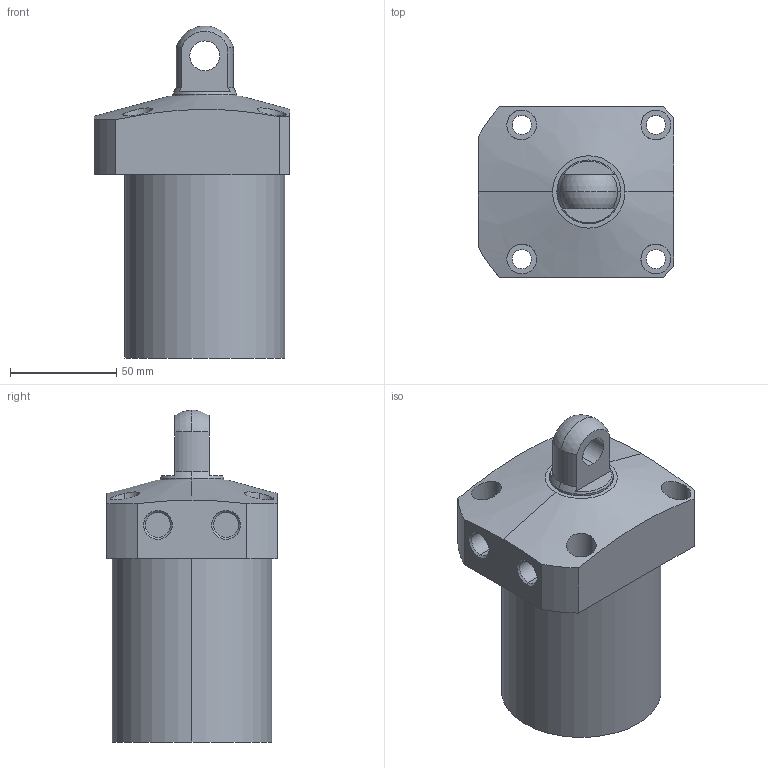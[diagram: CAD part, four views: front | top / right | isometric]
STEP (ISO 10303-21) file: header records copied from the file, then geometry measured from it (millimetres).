
FILE_DESCRIPTION (( 'STEP AP203' ), '1' );
FILE_NAME ('CLL-075CP-70.STEP', '2019-12-20T08:33:43', ( '' ), ( '' ), 'SwSTEP 2.0', 'SolidWorks 2015', '' );
FILE_SCHEMA (( 'CONFIG_CONTROL_DESIGN' ));
Length unit declared in the file: millimetre
Products named in the file (1): CLL-075CP-70
Bounding box: 92 x 80 x 156 mm (x, y, z)
Volume: 609406.1 mm3; surface area: 51532.9 mm2
Topology: 1 solids, 1 shells, 66 faces, 155 edges, 101 vertices
Faces by surface type: cylinder 35, plane 21, cone 8, sphere 2
Entity records: 2408 total; most frequent: CARTESIAN_POINT 755, DIRECTION 345, ORIENTED_EDGE 310, EDGE_CURVE 155, AXIS2_PLACEMENT_3D 143, VERTEX_POINT 101, EDGE_LOOP 86, CIRCLE 76
